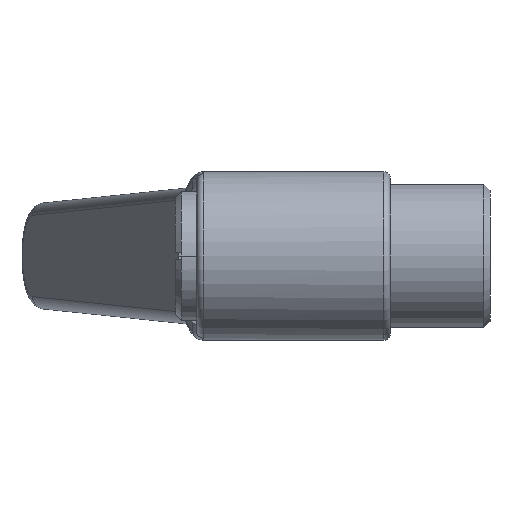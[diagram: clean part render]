
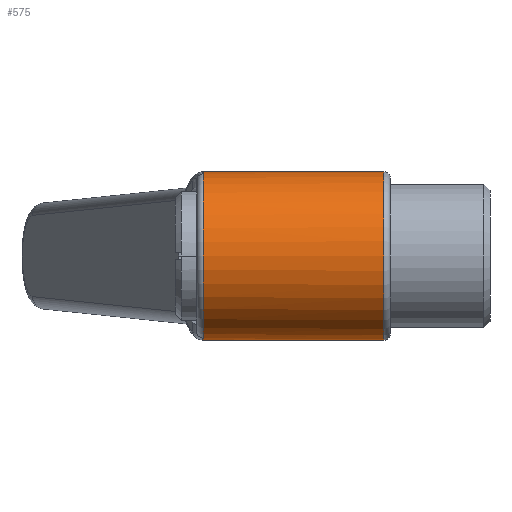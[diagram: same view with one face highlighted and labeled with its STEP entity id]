
A CAD part, left-side view. The second image highlights one B-rep face of the part: STEP entity #575.
In plain terms, the highlighted cylindrical face has radius 13.5 mm (diameter 27 mm), a partial arc.
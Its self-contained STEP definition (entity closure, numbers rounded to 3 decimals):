
#1 = DIRECTION ( 'NONE',  ( 0., 0., 1. ) ) ;
#25 = DIRECTION ( 'NONE',  ( 0., -1., 0. ) ) ;
#104 = EDGE_CURVE ( 'NONE', #882, #2427, #1292, .T. ) ;
#269 = ORIENTED_EDGE ( 'NONE', *, *, #104, .T. ) ;
#298 = B_SPLINE_CURVE_WITH_KNOTS ( 'NONE', 3,
 ( #610, #1198, #2153, #1012, #2352, #1204 ),
 .UNSPECIFIED., .F., .F.,
 ( 4, 2, 4 ),
 ( 0.003, 0.004, 0.006 ),
 .UNSPECIFIED. ) ;
#327 = CARTESIAN_POINT ( 'NONE',  ( 0., -30., -13.5 ) ) ;
#393 = DIRECTION ( 'NONE',  ( 0., -1., 0. ) ) ;
#438 = VERTEX_POINT ( 'NONE', #1526 ) ;
#541 = AXIS2_PLACEMENT_3D ( 'NONE', #2255, #1115, #1 ) ;
#571 = ORIENTED_EDGE ( 'NONE', *, *, #1464, .T. ) ;
#575 = ADVANCED_FACE ( 'NONE', ( #1628 ), #1618, .T. ) ;
#582 = DIRECTION ( 'NONE',  ( 0., 0., -1. ) ) ;
#610 = CARTESIAN_POINT ( 'NONE',  ( 0., -0.838, 13.5 ) ) ;
#612 = CARTESIAN_POINT ( 'NONE',  ( 0., -1., 0. ) ) ;
#637 = EDGE_CURVE ( 'NONE', #1102, #438, #298, .T. ) ;
#640 = AXIS2_PLACEMENT_3D ( 'NONE', #612, #1966, #817 ) ;
#741 = CARTESIAN_POINT ( 'NONE',  ( -2.815, -1., -13.203 ) ) ;
#817 = DIRECTION ( 'NONE',  ( 0., 0., -1. ) ) ;
#875 = LINE ( 'NONE', #1148, #903 ) ;
#882 = VERTEX_POINT ( 'NONE', #1080 ) ;
#903 = VECTOR ( 'NONE', #25, 1000. ) ;
#940 = CARTESIAN_POINT ( 'NONE',  ( 0., -0.838, -13.5 ) ) ;
#969 = CIRCLE ( 'NONE', #541, 13.5 ) ;
#1012 = CARTESIAN_POINT ( 'NONE',  ( -1.882, -0.987, 13.377 ) ) ;
#1080 = CARTESIAN_POINT ( 'NONE',  ( -2.815, -1., -13.203 ) ) ;
#1093 = VECTOR ( 'NONE', #2206, 1000. ) ;
#1099 = ORIENTED_EDGE ( 'NONE', *, *, #1768, .F. ) ;
#1102 = VERTEX_POINT ( 'NONE', #2062 ) ;
#1115 = DIRECTION ( 'NONE',  ( 0., 1., 0. ) ) ;
#1120 = LINE ( 'NONE', #1639, #1093 ) ;
#1148 = CARTESIAN_POINT ( 'NONE',  ( 0., 31., 13.5 ) ) ;
#1196 = ORIENTED_EDGE ( 'NONE', *, *, #1667, .T. ) ;
#1198 = CARTESIAN_POINT ( 'NONE',  ( -0.467, -0.892, 13.5 ) ) ;
#1204 = CARTESIAN_POINT ( 'NONE',  ( -2.815, -1., 13.203 ) ) ;
#1213 = CIRCLE ( 'NONE', #640, 13.5 ) ;
#1223 = ORIENTED_EDGE ( 'NONE', *, *, #637, .T. ) ;
#1292 = B_SPLINE_CURVE_WITH_KNOTS ( 'NONE', 3,
 ( #741, #2273, #1912, #940 ),
 .UNSPECIFIED., .F., .F.,
 ( 4, 4 ),
 ( 0., 0.003 ),
 .UNSPECIFIED. ) ;
#1302 = EDGE_CURVE ( 'NONE', #438, #882, #1213, .T. ) ;
#1365 = VERTEX_POINT ( 'NONE', #1777 ) ;
#1458 = ORIENTED_EDGE ( 'NONE', *, *, #1302, .T. ) ;
#1464 = EDGE_CURVE ( 'NONE', #2427, #1939, #1120, .T. ) ;
#1526 = CARTESIAN_POINT ( 'NONE',  ( -2.815, -1., 13.203 ) ) ;
#1618 = CYLINDRICAL_SURFACE ( 'NONE', #2328, 13.5 ) ;
#1628 = FACE_OUTER_BOUND ( 'NONE', #2360, .T. ) ;
#1639 = CARTESIAN_POINT ( 'NONE',  ( 0., 31., -13.5 ) ) ;
#1667 = EDGE_CURVE ( 'NONE', #1939, #1365, #969, .T. ) ;
#1768 = EDGE_CURVE ( 'NONE', #1102, #1365, #875, .T. ) ;
#1777 = CARTESIAN_POINT ( 'NONE',  ( 0., -30., 13.5 ) ) ;
#1912 = CARTESIAN_POINT ( 'NONE',  ( -0.94, -0.947, -13.5 ) ) ;
#1939 = VERTEX_POINT ( 'NONE', #327 ) ;
#1966 = DIRECTION ( 'NONE',  ( 0., -1., 0. ) ) ;
#2062 = CARTESIAN_POINT ( 'NONE',  ( 0., -0.838, 13.5 ) ) ;
#2153 = CARTESIAN_POINT ( 'NONE',  ( -0.941, -0.933, 13.475 ) ) ;
#2206 = DIRECTION ( 'NONE',  ( 0., -1., 0. ) ) ;
#2255 = CARTESIAN_POINT ( 'NONE',  ( 0., -30., 0. ) ) ;
#2273 = CARTESIAN_POINT ( 'NONE',  ( -1.878, -1., -13.403 ) ) ;
#2313 = CARTESIAN_POINT ( 'NONE',  ( 0., 31., 0. ) ) ;
#2328 = AXIS2_PLACEMENT_3D ( 'NONE', #2313, #393, #582 ) ;
#2352 = CARTESIAN_POINT ( 'NONE',  ( -2.35, -1., 13.302 ) ) ;
#2360 = EDGE_LOOP ( 'NONE', ( #1099, #1223, #1458, #269, #571, #1196 ) ) ;
#2402 = CARTESIAN_POINT ( 'NONE',  ( 0., -0.838, -13.5 ) ) ;
#2427 = VERTEX_POINT ( 'NONE', #2402 ) ;
